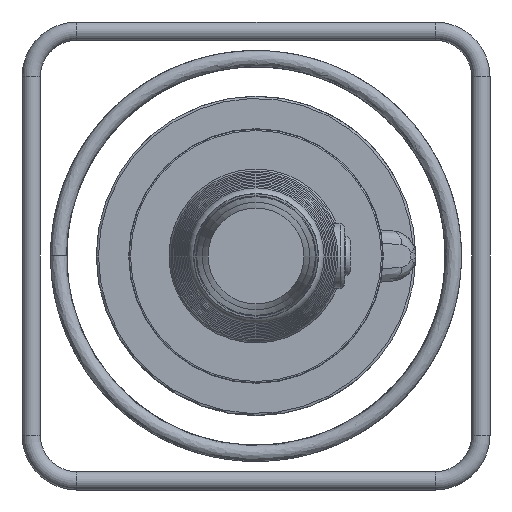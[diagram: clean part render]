
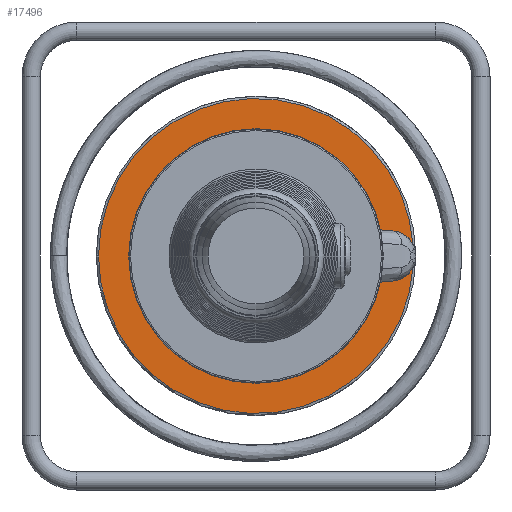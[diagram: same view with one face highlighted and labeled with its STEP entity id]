
A CAD part, left-side view. The second image highlights one B-rep face of the part: STEP entity #17496.
In plain terms, the highlighted planar face has unit normal (-1, 0, 0).
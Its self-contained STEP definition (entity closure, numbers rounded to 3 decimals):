
#814=PLANE('',#18515);
#2618=LINE('',#38725,#3597);
#2619=LINE('',#38732,#3598);
#3597=VECTOR('',#21587,10.);
#3598=VECTOR('',#21594,10.);
#4496=FACE_OUTER_BOUND('',#5556,.T.);
#5556=EDGE_LOOP('',(#14852,#14853,#14854,#14855,#14856,#14857,#14858,#14859,
#14860));
#5868=CIRCLE('',#17844,138.);
#6111=CIRCLE('',#18516,22.);
#6112=CIRCLE('',#18517,138.);
#6113=CIRCLE('',#18518,22.);
#6114=CIRCLE('',#18519,10.);
#6115=CIRCLE('',#18520,91.5);
#6116=CIRCLE('',#18521,10.);
#6647=VERTEX_POINT('',#23215);
#6650=VERTEX_POINT('',#23221);
#7925=VERTEX_POINT('',#38718);
#7926=VERTEX_POINT('',#38719);
#7927=VERTEX_POINT('',#38722);
#7928=VERTEX_POINT('',#38724);
#7929=VERTEX_POINT('',#38726);
#7930=VERTEX_POINT('',#38728);
#7931=VERTEX_POINT('',#38730);
#8383=EDGE_CURVE('',#6650,#6647,#5868,.T.);
#10292=EDGE_CURVE('',#7925,#7926,#6111,.T.);
#10293=EDGE_CURVE('',#6647,#7926,#6112,.T.);
#10294=EDGE_CURVE('',#6650,#7927,#6113,.T.);
#10295=EDGE_CURVE('',#7927,#7928,#2618,.T.);
#10296=EDGE_CURVE('',#7928,#7929,#6114,.T.);
#10297=EDGE_CURVE('',#7929,#7930,#6115,.T.);
#10298=EDGE_CURVE('',#7930,#7931,#6116,.T.);
#10299=EDGE_CURVE('',#7931,#7925,#2619,.T.);
#14852=ORIENTED_EDGE('',*,*,#10292,.T.);
#14853=ORIENTED_EDGE('',*,*,#10293,.F.);
#14854=ORIENTED_EDGE('',*,*,#8383,.F.);
#14855=ORIENTED_EDGE('',*,*,#10294,.T.);
#14856=ORIENTED_EDGE('',*,*,#10295,.T.);
#14857=ORIENTED_EDGE('',*,*,#10296,.T.);
#14858=ORIENTED_EDGE('',*,*,#10297,.T.);
#14859=ORIENTED_EDGE('',*,*,#10298,.T.);
#14860=ORIENTED_EDGE('',*,*,#10299,.T.);
#17496=ADVANCED_FACE('',(#4496),#814,.T.);
#17844=AXIS2_PLACEMENT_3D('',#23232,#19339,#19340);
#18515=AXIS2_PLACEMENT_3D('',#38717,#21579,#21580);
#18516=AXIS2_PLACEMENT_3D('',#38720,#21581,#21582);
#18517=AXIS2_PLACEMENT_3D('',#38721,#21583,#21584);
#18518=AXIS2_PLACEMENT_3D('',#38723,#21585,#21586);
#18519=AXIS2_PLACEMENT_3D('',#38727,#21588,#21589);
#18520=AXIS2_PLACEMENT_3D('',#38729,#21590,#21591);
#18521=AXIS2_PLACEMENT_3D('',#38731,#21592,#21593);
#19339=DIRECTION('center_axis',(1.,0.,0.));
#19340=DIRECTION('ref_axis',(0.,0.,
1.));
#21579=DIRECTION('center_axis',(-1.,0.,0.));
#21580=DIRECTION('ref_axis',(0.,1.,0.));
#21581=DIRECTION('center_axis',(1.,0.,0.));
#21582=DIRECTION('ref_axis',(0.,0.087,0.996));
#21583=DIRECTION('center_axis',(1.,0.,0.));
#21584=DIRECTION('ref_axis',(0.,0.,
1.));
#21585=DIRECTION('center_axis',(1.,0.,0.));
#21586=DIRECTION('ref_axis',(0.,0.087,0.996));
#21587=DIRECTION('',(0.,0.996,-0.087));
#21588=DIRECTION('center_axis',(-1.,0.,0.));
#21589=DIRECTION('ref_axis',(0.,0.087,0.996));
#21590=DIRECTION('center_axis',(1.,0.,0.));
#21591=DIRECTION('ref_axis',(0.,0.,
1.));
#21592=DIRECTION('center_axis',(-1.,0.,0.));
#21593=DIRECTION('ref_axis',(0.,0.934,-0.358));
#21594=DIRECTION('',(0.,-0.996,-0.087));
#23215=CARTESIAN_POINT('',(-17.009,137.996,0.));
#23221=CARTESIAN_POINT('',(-17.009,-137.649,-9.905));
#23232=CARTESIAN_POINT('Origin',(-17.009,-0.004,
0.));
#38717=CARTESIAN_POINT('Origin',(-17.009,-0.004,
114.75));
#38718=CARTESIAN_POINT('',(-17.009,-119.922,21.916));
#38719=CARTESIAN_POINT('',(-17.009,-137.649,9.905));
#38720=CARTESIAN_POINT('Origin',(-17.009,-118.004,0.));
#38721=CARTESIAN_POINT('Origin',(-17.009,-0.004,
0.));
#38722=CARTESIAN_POINT('',(-17.009,-119.922,-21.916));
#38723=CARTESIAN_POINT('Origin',(-17.009,-118.004,0.));
#38724=CARTESIAN_POINT('',(-17.009,-89.231,-24.601));
#38725=CARTESIAN_POINT('',(-17.009,-66.352,-26.603));
#38726=CARTESIAN_POINT('',(-17.009,-88.088,-24.768));
#38727=CARTESIAN_POINT('Origin',(-17.009,-90.102,-34.563));
#38728=CARTESIAN_POINT('',(-17.009,-88.088,24.768));
#38729=CARTESIAN_POINT('Origin',(-17.009,-0.004,
0.));
#38730=CARTESIAN_POINT('',(-17.009,-89.231,24.601));
#38731=CARTESIAN_POINT('Origin',(-17.009,-90.102,34.563));
#38732=CARTESIAN_POINT('',(-17.009,-41.043,28.817));
